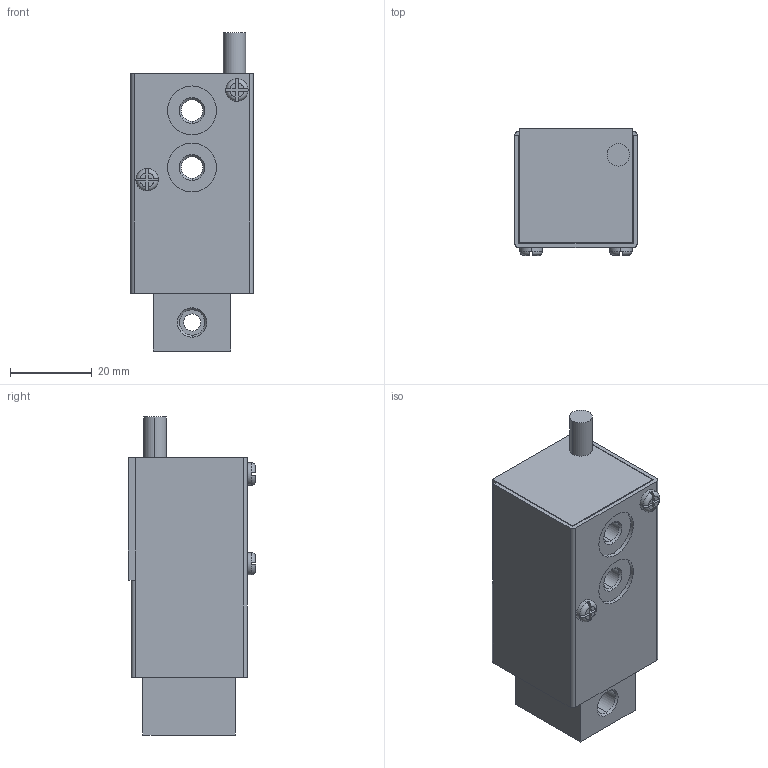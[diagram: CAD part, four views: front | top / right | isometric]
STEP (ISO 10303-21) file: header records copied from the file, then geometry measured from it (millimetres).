
FILE_DESCRIPTION (( 'STEP AP214' ), '1' );
FILE_NAME ('3D_KM701.STEP', '2014-06-17T13:48:51', ( '' ), ( '' ), 'SwSTEP 2.0', 'SolidWorks 2012', '' );
FILE_SCHEMA (( 'AUTOMOTIVE_DESIGN' ));
Length unit declared in the file: metre
Products named in the file (1): 3D_KM701
Bounding box: 30 x 31.15 x 78 mm (x, y, z)
Volume: 50239.1 mm3; surface area: 18927.2 mm2
Topology: 1 solids, 1 shells, 116 faces, 278 edges, 170 vertices
Faces by surface type: plane 58, cylinder 32, cone 18, torus 8
Entity records: 3683 total; most frequent: CARTESIAN_POINT 697, DIRECTION 594, ORIENTED_EDGE 548, EDGE_CURVE 274, AXIS2_PLACEMENT_3D 219, VERTEX_POINT 170, LINE 156, VECTOR 156
